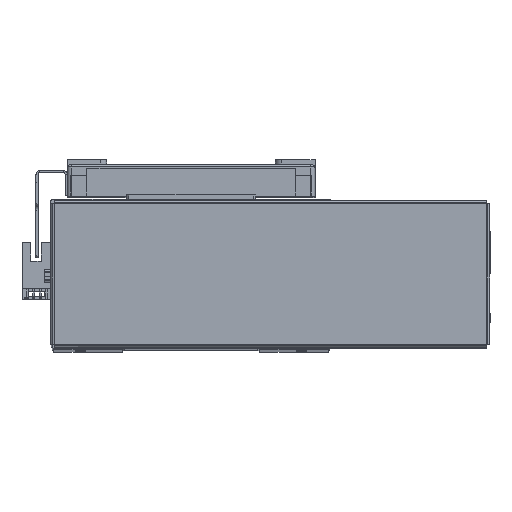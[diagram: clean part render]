
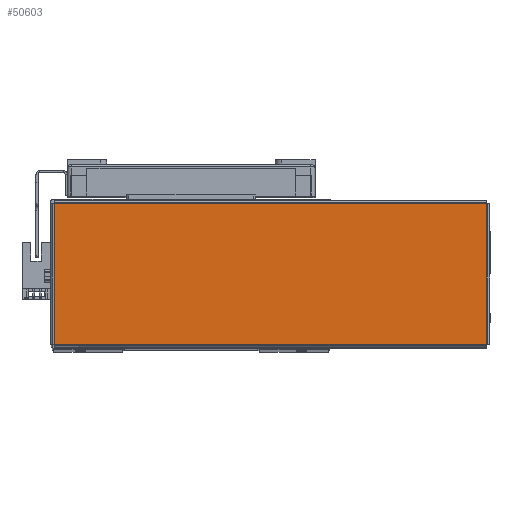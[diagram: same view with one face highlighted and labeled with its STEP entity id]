
A CAD part, top view. The second image highlights one B-rep face of the part: STEP entity #50603.
In plain terms, the highlighted planar face has unit normal (0, 0, 1) as drawn and (0, -1, 0) by its records, which use the part's own axes.
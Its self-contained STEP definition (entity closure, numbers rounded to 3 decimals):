
#3397 = LINE ( 'NONE', #56077, #3427 ) ;
#3422 = VECTOR ( 'NONE', #56152, 1000. ) ;
#3427 = VECTOR ( 'NONE', #56070, 1000. ) ;
#3488 = LINE ( 'NONE', #56115, #3422 ) ;
#3517 = LINE ( 'NONE', #56187, #3541 ) ;
#3539 = VECTOR ( 'NONE', #62873, 1000. ) ;
#3541 = VECTOR ( 'NONE', #56188, 1000. ) ;
#3571 = LINE ( 'NONE', #62855, #3539 ) ;
#9632 = FACE_OUTER_BOUND ( 'NONE', #43494, .T. ) ;
#13423 = EDGE_CURVE ( 'NONE', #14726, #14783, #3397, .T. ) ;
#13433 = EDGE_CURVE ( 'NONE', #14767, #14726, #3488, .T. ) ;
#13454 = EDGE_CURVE ( 'NONE', #14783, #14746, #3517, .T. ) ;
#13487 = EDGE_CURVE ( 'NONE', #14746, #14767, #3571, .T. ) ;
#14726 = VERTEX_POINT ( 'NONE', #60596 ) ;
#14746 = VERTEX_POINT ( 'NONE', #60605 ) ;
#14767 = VERTEX_POINT ( 'NONE', #60649 ) ;
#14783 = VERTEX_POINT ( 'NONE', #60670 ) ;
#17782 = PLANE ( 'NONE',  #31741 ) ;
#17806 = DIRECTION ( 'NONE',  ( 0., 0., 1. ) ) ;
#17808 = DIRECTION ( 'NONE',  ( 0., 1., 0. ) ) ;
#17811 = CARTESIAN_POINT ( 'NONE',  ( 0., -1., 0. ) ) ;
#31741 = AXIS2_PLACEMENT_3D ( 'NONE', #17811, #17808, #17806 ) ;
#43494 = EDGE_LOOP ( 'NONE', ( #52954, #52964, #53014, #52935 ) ) ;
#50603 = ADVANCED_FACE ( 'NONE', ( #9632 ), #17782, .F. ) ;
#52935 = ORIENTED_EDGE ( 'NONE', *, *, #13433, .T. ) ;
#52954 = ORIENTED_EDGE ( 'NONE', *, *, #13423, .T. ) ;
#52964 = ORIENTED_EDGE ( 'NONE', *, *, #13454, .T. ) ;
#53014 = ORIENTED_EDGE ( 'NONE', *, *, #13487, .T. ) ;
#56070 = DIRECTION ( 'NONE',  ( -1., 0., 0. ) ) ;
#56077 = CARTESIAN_POINT ( 'NONE',  ( 103.793, -1., 33.763 ) ) ;
#56115 = CARTESIAN_POINT ( 'NONE',  ( 103.763, -1., -33.793 ) ) ;
#56152 = DIRECTION ( 'NONE',  ( 0., 0., 1. ) ) ;
#56187 = CARTESIAN_POINT ( 'NONE',  ( -103.763, -1., 33.793 ) ) ;
#56188 = DIRECTION ( 'NONE',  ( 0., 0., -1. ) ) ;
#60596 = CARTESIAN_POINT ( 'NONE',  ( 103.763, -1., 33.763 ) ) ;
#60605 = CARTESIAN_POINT ( 'NONE',  ( -103.763, -1., -33.763 ) ) ;
#60649 = CARTESIAN_POINT ( 'NONE',  ( 103.763, -1., -33.763 ) ) ;
#60670 = CARTESIAN_POINT ( 'NONE',  ( -103.763, -1., 33.763 ) ) ;
#62855 = CARTESIAN_POINT ( 'NONE',  ( -103.793, -1., -33.763 ) ) ;
#62873 = DIRECTION ( 'NONE',  ( 1., 0., 0. ) ) ;
